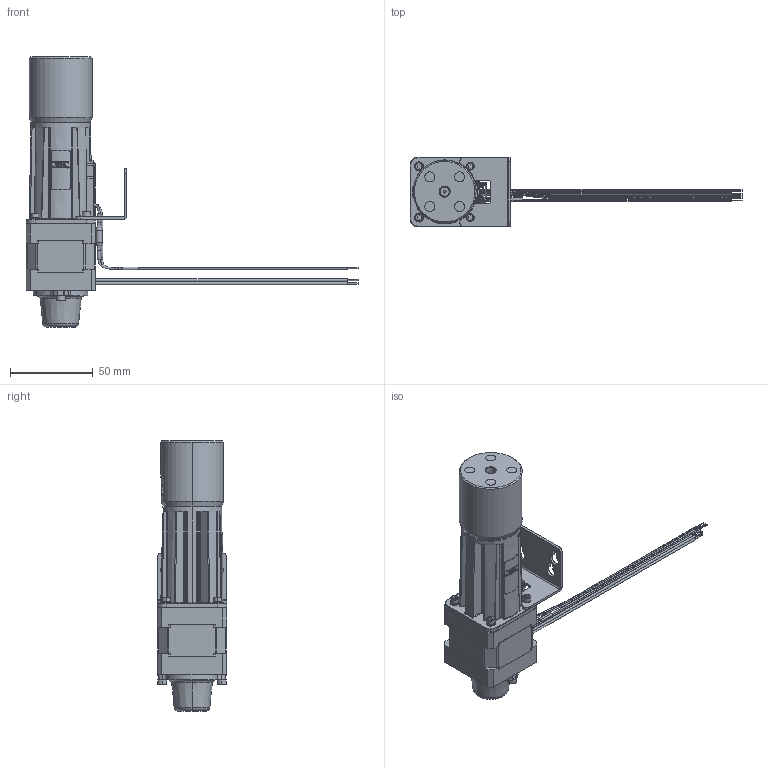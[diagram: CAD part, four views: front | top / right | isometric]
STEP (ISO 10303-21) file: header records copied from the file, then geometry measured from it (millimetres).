
FILE_DESCRIPTION (( 'STEP AP214' ), '1' );
FILE_NAME ('Lee-LPD_Series_SP_PMMA_1000µL-CAD_Model A1.step', '2021-03-30T13:30:17', ( '' ), ( '' ), 'SwSTEP 2.0', 'SolidWorks 2021', '' );
FILE_SCHEMA (( 'AUTOMOTIVE_DESIGN' ));
Length unit declared in the file: inch
Products named in the file (1): Lee-LPD_Series_SP_PMMA_1000無-CAD_Model A1
Bounding box: 200.66 x 41.91 x 163.32 mm (x, y, z)
Volume: 190496.5 mm3; surface area: 36747 mm2
Topology: 1 solids, 1 shells, 1232 faces, 3172 edges, 2034 vertices
Faces by surface type: plane 452, bspline 390, cylinder 306, torus 45, cone 37, sphere 2
Entity records: 67791 total; most frequent: CARTESIAN_POINT 30653, ORIENTED_EDGE 6308, DIRECTION 4504, EDGE_CURVE 3154, VERTEX_POINT 2034, AXIS2_PLACEMENT_3D 1680, EDGE_LOOP 1356, FACE_OUTER_BOUND 1232
